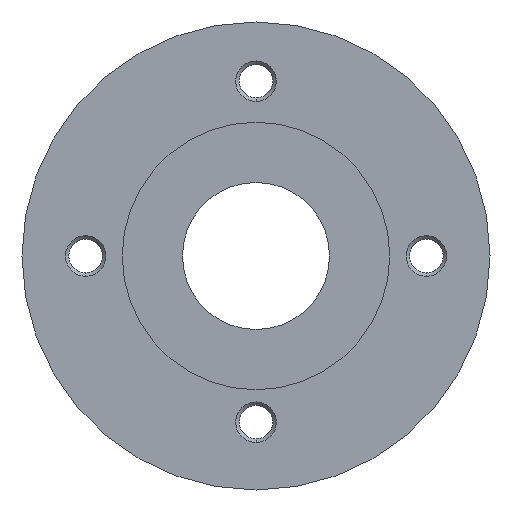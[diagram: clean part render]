
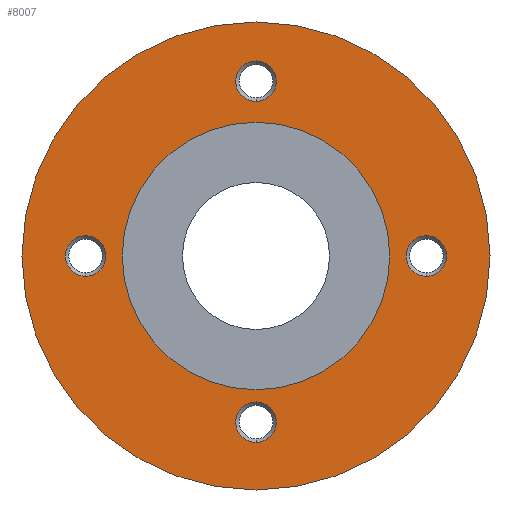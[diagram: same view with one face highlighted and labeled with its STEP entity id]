
A CAD part, left-side view. The second image highlights one B-rep face of the part: STEP entity #8007.
In plain terms, the highlighted planar face has unit normal (-1, 0, 0).
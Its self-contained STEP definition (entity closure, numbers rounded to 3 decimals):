
#6 = CARTESIAN_POINT ( 'NONE',  ( -46.709, 0., 26.146 ) ) ;
#79 = CIRCLE ( 'NONE', #19042, 35. ) ;
#211 = CARTESIAN_POINT ( 'NONE',  ( -46.709, -25.492, 3.025 ) ) ;
#504 = FACE_BOUND ( 'NONE', #5014, .T. ) ;
#563 = EDGE_CURVE ( 'NONE', #32159, #26220, #23105, .T. ) ;
#600 = CARTESIAN_POINT ( 'NONE',  ( -46.709, 0., 35. ) ) ;
#617 = ORIENTED_EDGE ( 'NONE', *, *, #8859, .F. ) ;
#1007 = FACE_BOUND ( 'NONE', #8149, .T. ) ;
#1119 = EDGE_LOOP ( 'NONE', ( #18814, #16192 ) ) ;
#1887 = AXIS2_PLACEMENT_3D ( 'NONE', #19630, #17085, #27425 ) ;
#1942 = CIRCLE ( 'NONE', #18188, 3.025 ) ;
#2080 = CIRCLE ( 'NONE', #21023, 3.025 ) ;
#2209 = ORIENTED_EDGE ( 'NONE', *, *, #20839, .T. ) ;
#2374 = AXIS2_PLACEMENT_3D ( 'NONE', #6, #28659, #20513 ) ;
#2544 = AXIS2_PLACEMENT_3D ( 'NONE', #23610, #21569, #13791 ) ;
#2747 = CIRCLE ( 'NONE', #21695, 3.025 ) ;
#2961 = AXIS2_PLACEMENT_3D ( 'NONE', #16630, #26966, #3749 ) ;
#3749 = DIRECTION ( 'NONE',  ( 0., 0., 1. ) ) ;
#3970 = EDGE_LOOP ( 'NONE', ( #23806, #16558 ) ) ;
#4207 = DIRECTION ( 'NONE',  ( -1., 0., 0. ) ) ;
#5014 = EDGE_LOOP ( 'NONE', ( #12896, #2209 ) ) ;
#6366 = DIRECTION ( 'NONE',  ( 0., 0., 1. ) ) ;
#7167 = CARTESIAN_POINT ( 'NONE',  ( -46.709, 0., 26.146 ) ) ;
#7508 = CARTESIAN_POINT ( 'NONE',  ( -46.709, 25.492, 0. ) ) ;
#7629 = DIRECTION ( 'NONE',  ( 0., 0., -1. ) ) ;
#7919 = CARTESIAN_POINT ( 'NONE',  ( -46.709, 0., 23.121 ) ) ;
#8007 = ADVANCED_FACE ( 'NONE', ( #18986, #16281, #1007, #8662, #504, #18651 ), #11363, .T. ) ;
#8149 = EDGE_LOOP ( 'NONE', ( #22296, #617 ) ) ;
#8662 = FACE_BOUND ( 'NONE', #12640, .T. ) ;
#8859 = EDGE_CURVE ( 'NONE', #31080, #21629, #11585, .T. ) ;
#8890 = DIRECTION ( 'NONE',  ( 0., 0., -1. ) ) ;
#9312 = DIRECTION ( 'NONE',  ( 0., 0., 1. ) ) ;
#10024 = CIRCLE ( 'NONE', #1887, 20. ) ;
#10461 = CARTESIAN_POINT ( 'NONE',  ( -46.709, 25.492, 3.025 ) ) ;
#10958 = CARTESIAN_POINT ( 'NONE',  ( -46.709, -25.492, -3.025 ) ) ;
#11363 = PLANE ( 'NONE',  #14290 ) ;
#11445 = CARTESIAN_POINT ( 'NONE',  ( -46.709, 25.492, 0. ) ) ;
#11585 = CIRCLE ( 'NONE', #2374, 3.025 ) ;
#11844 = DIRECTION ( 'NONE',  ( 1., 0., 0. ) ) ;
#12505 = CARTESIAN_POINT ( 'NONE',  ( -46.709, 0., 29.171 ) ) ;
#12640 = EDGE_LOOP ( 'NONE', ( #20877, #27560 ) ) ;
#12896 = ORIENTED_EDGE ( 'NONE', *, *, #21029, .T. ) ;
#13397 = EDGE_CURVE ( 'NONE', #31452, #30944, #1942, .T. ) ;
#13649 = VERTEX_POINT ( 'NONE', #25795 ) ;
#13714 = CARTESIAN_POINT ( 'NONE',  ( -46.709, 0., -20. ) ) ;
#13791 = DIRECTION ( 'NONE',  ( 0., 0., 1. ) ) ;
#14290 = AXIS2_PLACEMENT_3D ( 'NONE', #32045, #33452, #30913 ) ;
#15439 = CIRCLE ( 'NONE', #22991, 3.025 ) ;
#15581 = DIRECTION ( 'NONE',  ( 1., 0., 0. ) ) ;
#16184 = CIRCLE ( 'NONE', #20490, 35. ) ;
#16192 = ORIENTED_EDGE ( 'NONE', *, *, #26876, .F. ) ;
#16281 = FACE_BOUND ( 'NONE', #3970, .T. ) ;
#16558 = ORIENTED_EDGE ( 'NONE', *, *, #563, .F. ) ;
#16630 = CARTESIAN_POINT ( 'NONE',  ( -46.709, -25.492, 0. ) ) ;
#16834 = DIRECTION ( 'NONE',  ( 1., 0., 0. ) ) ;
#17085 = DIRECTION ( 'NONE',  ( 1., 0., 0. ) ) ;
#17549 = VERTEX_POINT ( 'NONE', #24564 ) ;
#17740 = CARTESIAN_POINT ( 'NONE',  ( -46.709, 0., -24.854 ) ) ;
#17900 = CIRCLE ( 'NONE', #29821, 3.025 ) ;
#18188 = AXIS2_PLACEMENT_3D ( 'NONE', #7508, #33268, #20867 ) ;
#18242 = DIRECTION ( 'NONE',  ( 0., 0., 1. ) ) ;
#18651 = FACE_OUTER_BOUND ( 'NONE', #1119, .T. ) ;
#18787 = EDGE_CURVE ( 'NONE', #20122, #32124, #79, .T. ) ;
#18814 = ORIENTED_EDGE ( 'NONE', *, *, #18787, .F. ) ;
#18986 = FACE_BOUND ( 'NONE', #19593, .T. ) ;
#19042 = AXIS2_PLACEMENT_3D ( 'NONE', #31601, #16834, #8890 ) ;
#19409 = EDGE_CURVE ( 'NONE', #26220, #32159, #21910, .T. ) ;
#19593 = EDGE_LOOP ( 'NONE', ( #29656, #31283 ) ) ;
#19630 = CARTESIAN_POINT ( 'NONE',  ( -46.709, 0., 0. ) ) ;
#20122 = VERTEX_POINT ( 'NONE', #23888 ) ;
#20490 = AXIS2_PLACEMENT_3D ( 'NONE', #20650, #15581, #7629 ) ;
#20513 = DIRECTION ( 'NONE',  ( 0., 0., 1. ) ) ;
#20650 = CARTESIAN_POINT ( 'NONE',  ( -46.709, 0., 0. ) ) ;
#20839 = EDGE_CURVE ( 'NONE', #17549, #24441, #31673, .T. ) ;
#20854 = EDGE_CURVE ( 'NONE', #22010, #13649, #15439, .T. ) ;
#20867 = DIRECTION ( 'NONE',  ( 0., 0., 1. ) ) ;
#20877 = ORIENTED_EDGE ( 'NONE', *, *, #31249, .F. ) ;
#21023 = AXIS2_PLACEMENT_3D ( 'NONE', #11445, #21600, #6366 ) ;
#21029 = EDGE_CURVE ( 'NONE', #24441, #17549, #10024, .T. ) ;
#21569 = DIRECTION ( 'NONE',  ( -1., 0., 0. ) ) ;
#21600 = DIRECTION ( 'NONE',  ( -1., 0., 0. ) ) ;
#21629 = VERTEX_POINT ( 'NONE', #12505 ) ;
#21695 = AXIS2_PLACEMENT_3D ( 'NONE', #7167, #22734, #28502 ) ;
#21910 = CIRCLE ( 'NONE', #2961, 3.025 ) ;
#22010 = VERTEX_POINT ( 'NONE', #32656 ) ;
#22296 = ORIENTED_EDGE ( 'NONE', *, *, #32892, .F. ) ;
#22734 = DIRECTION ( 'NONE',  ( -1., 0., 0. ) ) ;
#22991 = AXIS2_PLACEMENT_3D ( 'NONE', #32534, #4207, #9312 ) ;
#23105 = CIRCLE ( 'NONE', #2544, 3.025 ) ;
#23610 = CARTESIAN_POINT ( 'NONE',  ( -46.709, -25.492, 0. ) ) ;
#23806 = ORIENTED_EDGE ( 'NONE', *, *, #19409, .F. ) ;
#23888 = CARTESIAN_POINT ( 'NONE',  ( -46.709, 0., -35. ) ) ;
#24441 = VERTEX_POINT ( 'NONE', #13714 ) ;
#24564 = CARTESIAN_POINT ( 'NONE',  ( -46.709, 0., 20. ) ) ;
#24724 = CARTESIAN_POINT ( 'NONE',  ( -46.709, 0., 0. ) ) ;
#25446 = EDGE_CURVE ( 'NONE', #30944, #31452, #2080, .T. ) ;
#25795 = CARTESIAN_POINT ( 'NONE',  ( -46.709, 0., -21.829 ) ) ;
#25872 = DIRECTION ( 'NONE',  ( -1., 0., 0. ) ) ;
#26220 = VERTEX_POINT ( 'NONE', #211 ) ;
#26876 = EDGE_CURVE ( 'NONE', #32124, #20122, #16184, .T. ) ;
#26966 = DIRECTION ( 'NONE',  ( -1., 0., 0. ) ) ;
#27425 = DIRECTION ( 'NONE',  ( 0., 0., -1. ) ) ;
#27560 = ORIENTED_EDGE ( 'NONE', *, *, #20854, .F. ) ;
#27582 = CARTESIAN_POINT ( 'NONE',  ( -46.709, 25.492, -3.025 ) ) ;
#27763 = DIRECTION ( 'NONE',  ( 0., 0., -1. ) ) ;
#28502 = DIRECTION ( 'NONE',  ( 0., 0., 1. ) ) ;
#28659 = DIRECTION ( 'NONE',  ( -1., 0., 0. ) ) ;
#29656 = ORIENTED_EDGE ( 'NONE', *, *, #13397, .F. ) ;
#29821 = AXIS2_PLACEMENT_3D ( 'NONE', #17740, #25872, #18242 ) ;
#30052 = AXIS2_PLACEMENT_3D ( 'NONE', #24724, #11844, #27763 ) ;
#30913 = DIRECTION ( 'NONE',  ( 0., 0., 1. ) ) ;
#30944 = VERTEX_POINT ( 'NONE', #27582 ) ;
#31080 = VERTEX_POINT ( 'NONE', #7919 ) ;
#31249 = EDGE_CURVE ( 'NONE', #13649, #22010, #17900, .T. ) ;
#31283 = ORIENTED_EDGE ( 'NONE', *, *, #25446, .F. ) ;
#31452 = VERTEX_POINT ( 'NONE', #10461 ) ;
#31601 = CARTESIAN_POINT ( 'NONE',  ( -46.709, 0., 0. ) ) ;
#31673 = CIRCLE ( 'NONE', #30052, 20. ) ;
#32045 = CARTESIAN_POINT ( 'NONE',  ( -46.709, 0., -20. ) ) ;
#32124 = VERTEX_POINT ( 'NONE', #600 ) ;
#32159 = VERTEX_POINT ( 'NONE', #10958 ) ;
#32534 = CARTESIAN_POINT ( 'NONE',  ( -46.709, 0., -24.854 ) ) ;
#32656 = CARTESIAN_POINT ( 'NONE',  ( -46.709, 0., -27.879 ) ) ;
#32892 = EDGE_CURVE ( 'NONE', #21629, #31080, #2747, .T. ) ;
#33268 = DIRECTION ( 'NONE',  ( -1., 0., 0. ) ) ;
#33452 = DIRECTION ( 'NONE',  ( -1., 0., 0. ) ) ;
